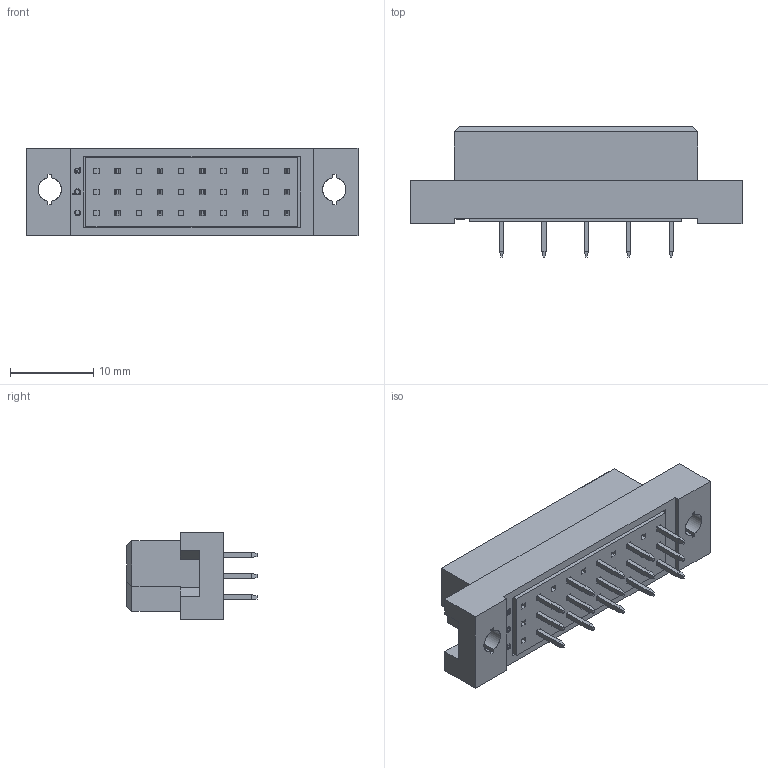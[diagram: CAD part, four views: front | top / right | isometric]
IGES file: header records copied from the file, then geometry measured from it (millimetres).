
Start section: SolidWorks IGES file using analytic representation for surfaces
Global section: file name: D:\圖面工作\3D\未歸檔資料\待歸檔\9001-26151C00A\9001-26151C00A.IGS; native system: SolidWorks 2011; preprocessor: SolidWorks 2011; author: rd03; date: 160225.163428; units: millimetre
Bounding box: 39.8 x 15.6 x 10.5 mm (x, y, z)
Surface area: 3698.4 mm2 (no closed solid volume)
Topology: 0 solids, 0 shells, 1481 faces, 9171 edges, 9171 vertices
Faces by surface type: bspline 1267, revolution 214
